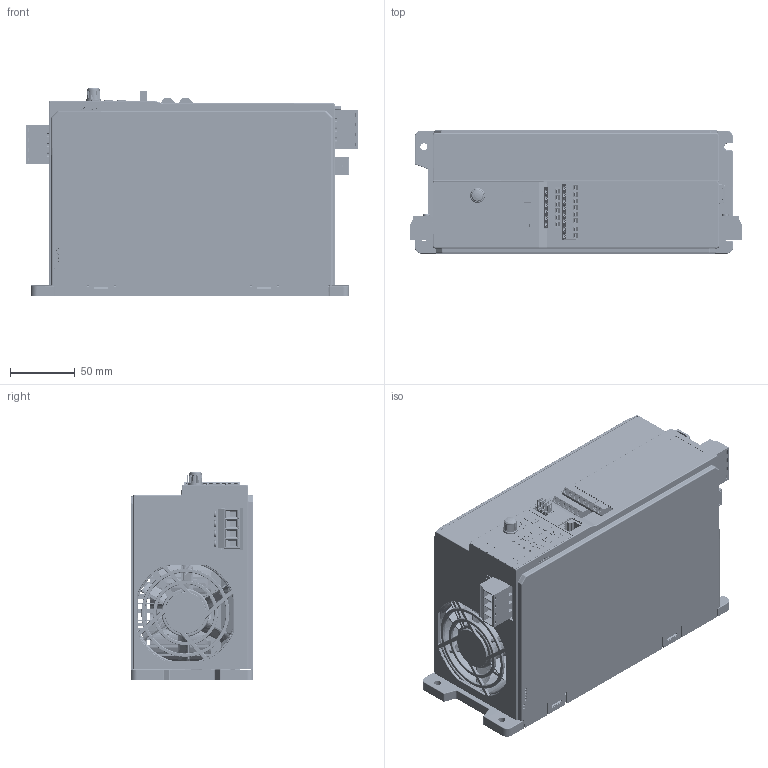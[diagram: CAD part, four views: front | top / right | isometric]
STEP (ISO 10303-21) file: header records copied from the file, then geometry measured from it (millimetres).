
FILE_DESCRIPTION(('STEP AP242'), '1');
FILE_NAME('E5-Mini-5.5êÂò', '2025-12-24T13:37:51', (''), (''), 'C3D Converter', 'C3D Toolkit', '');
FILE_SCHEMA(('AP242_MANAGED_MODEL_BASED_3D_ENGINEERING_MIM_LF { 1 0 10303 442 1 1 4 }'));
Length unit declared in the file: millimetre
Products named in the file (81): Сборка; 63160242-LJ; Корпус в сборе 5.5 кВт; Шасси корпуса; Кожух корпуса; 5.5 кВт; E5-Mini-5.5кВт-3BDRV1100B01_0512_B; 0805LED; 1507; Винт; Реле предзаряда; Импульсный трансформатор; 5EDGKH-7_62-04P-14-02A_H_; 02310317-SZP_ASM; 6IN1-0517-1_ASM; 6IN1-0517-3; 6IN1-0517-3-PCBA; TO-247_C1196937925; 63200552-LJ; GB6561M2R5-6; J-RJ45-W1; PL2_5S-02-7_50-03; PL2_5B-02-7_50-03-V1; MT3516_730; E5-Mini-1R5-LD_5.5 кВт_ASM; 63120029; 63120025-LJ; 63120030-LJ; 63120027-LJ; 63120343-LJ; 07050001-LJ; 28010069-LJ; ZKWZ-PCB02_3_ASM; Кнопка; LED; EU1_5_02_5_08_08_ASM; EU1_5_06_5_08_08_ASM; EM700-0R7-3BCON1100B00_0601_ASM; E5-Mini-Плата; R-1206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
Assembly tree (296 placements, depth 5):
  Сборка
    63160242-LJ
    Корпус в сборе 5.5 кВт
      Шасси корпуса
      Кожух корпуса
    5.5 кВт
      5.5 кВт
      E5-Mini-5.5кВт-3BDRV1100B01_0512_B
      0805LED
      1507
      Винт
      Реле предзаряда
      Импульсный трансформатор
      (unnamed)  x2
      5EDGKH-7_62-04P-14-02A_H_  x2
      02310317-SZP_ASM
        6IN1-0517-1_ASM
          6IN1-0517-3
          6IN1-0517-3-PCBA
          TO-247_C1196937925  x6
        63200552-LJ
        GB6561M2R5-6  x2
      TO-247_C1196937925
      J-RJ45-W1
      PL2_5S-02-7_50-03
      PL2_5B-02-7_50-03-V1
      MT3516_730
    E5-Mini-1R5-LD_5.5 кВт_ASM
      63120029  x4
      63120025-LJ  x3
      63120030-LJ
      63120027-LJ
      63120343-LJ  x2
    07050001-LJ
    28010069-LJ
    ZKWZ-PCB02_3_ASM
      (unnamed)
      Кнопка  x8
      LED
      EU1_5_02_5_08_08_ASM
      EU1_5_06_5_08_08_ASM  x2
      EM700-0R7-3BCON1100B00_0601_ASM
        E5-Mini-Плата
        R-1206  x8
        C-1206  x11
        SO-16  x2
        R-0805  x24
        LED-0805  x7
        K-T1102NE  x8
        R11  x51
        C-0603  x39
        SO-8  x2
        RT-1812  x2
        J-TEST  x20
        R-1210  x3
        LQFP-48
        VR-F12E-S5H4BF1
        LED-E50361-IOOW
        SOD-123
        J-JSZ-EA190-KEY  x4
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Bounding box: 256.66 x 95 x 161.07 mm (x, y, z)
Volume: 1003960.7 mm3; surface area: 876876 mm2
Topology: 381 solids, 507 shells, 24665 faces, 65327 edges, 42001 vertices
Faces by surface type: plane 16447, cylinder 4142, extrusion 1960, bspline 588, cone 565, sphere 536, torus 411, revolution 16
Full cylindrical faces by diameter (mm): 0.254 x229, 0.3 x2, 0.432 x2, 0.51 x42, 0.6 x18, 0.7 x11, 0.8 x1, 0.9 x14, 0.95 x14, 1 x9, 1.1 x4, 1.2 x74, 1.4 x14, 1.5 x1, 2 x40, 2.1 x2, 2.2 x16, 2.34 x14, 2.4 x2, 2.5 x7, 2.7 x4, 2.9 x13, 3 x28, 3.1 x8, 3.2 x15, 3.5 x32, 3.6 x1, 3.8 x9, 3.9 x5, 4 x47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
Entity records: 659422 total; most frequent: CARTESIAN_POINT 205364, ORIENTED_EDGE 78694, DIRECTION 66294, EDGE_CURVE 39465, VECTOR 29720, LINE 28465, VERTEX_POINT 26318, AXIS2_PLACEMENT_3D 18282
